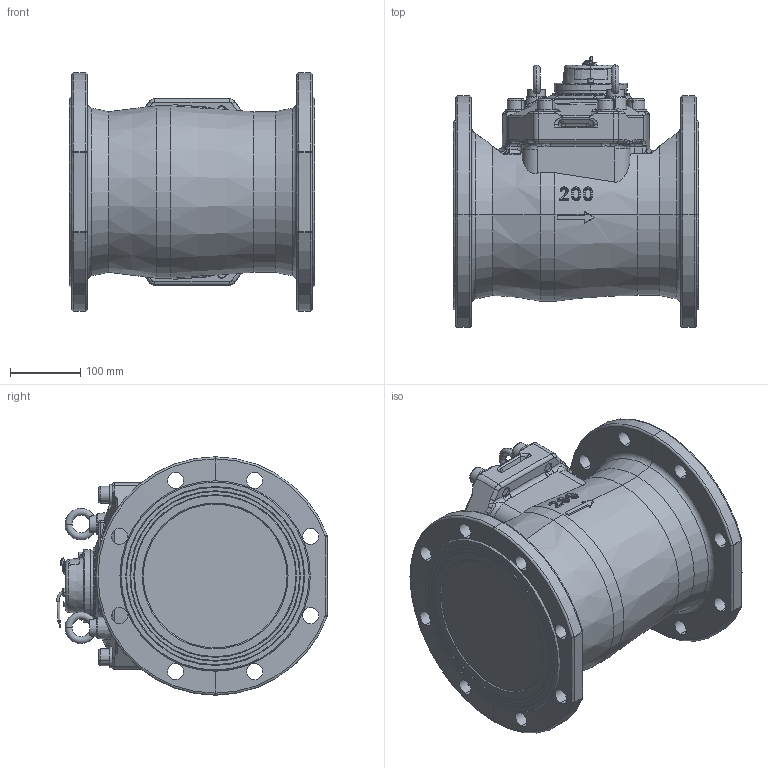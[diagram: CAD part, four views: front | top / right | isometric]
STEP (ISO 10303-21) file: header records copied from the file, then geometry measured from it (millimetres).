
FILE_DESCRIPTION (( 'STEP AP214' ), '1' );
FILE_NAME ('MWN130-200-NC.STEP', '2025-08-01T11:37:56', ( '' ), ( '' ), 'SwSTEP 2.0', 'SolidWorks 2019', '' );
FILE_SCHEMA (( 'AUTOMOTIVE_DESIGN' ));
Length unit declared in the file: millimetre
Products named in the file (1): MWN130-200-NC
Bounding box: 350 x 386.02 x 340 mm (x, y, z)
Surface area: 912286 mm2 (no closed solid volume)
Topology: 0 solids, 58 shells, 2218 faces, 5606 edges, 3476 vertices
Faces by surface type: plane 745, cylinder 708, cone 319, bspline 256, torus 156, sphere 34
Entity records: 128165 total; most frequent: CARTESIAN_POINT 52723, ORIENTED_EDGE 11023, DIRECTION 10282, EDGE_CURVE 5514, AXIS2_PLACEMENT_3D 4090, VERTEX_POINT 3469, EDGE_LOOP 2418, FACE_OUTER_BOUND 2218
